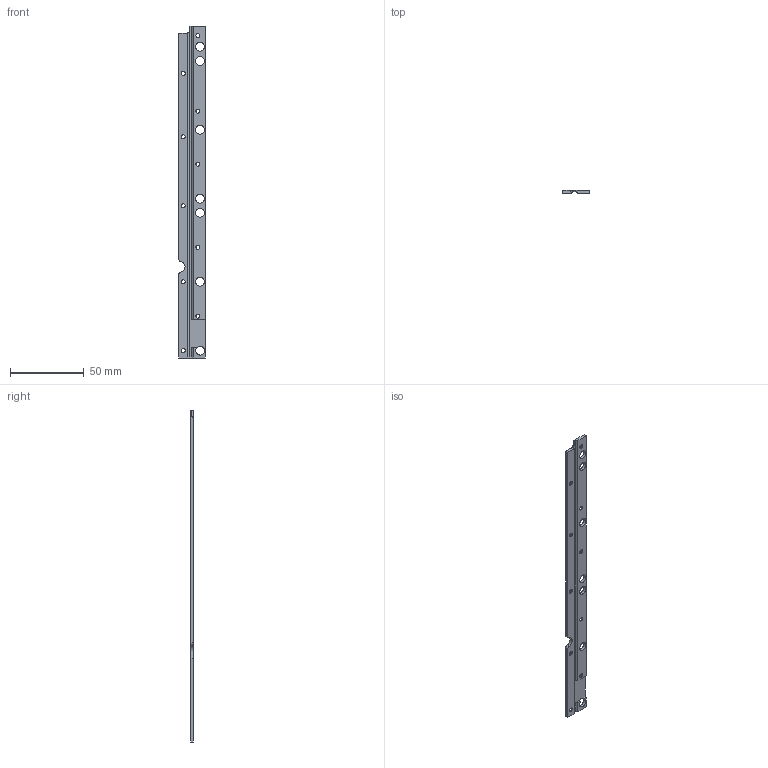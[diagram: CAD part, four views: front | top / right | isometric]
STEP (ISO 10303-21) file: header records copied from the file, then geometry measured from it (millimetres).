
FILE_DESCRIPTION(/* description */ (''),/* implementation_level */ '2;1');
FILE_NAME(/* name */ 'LAMINA#5specular.stp',/* time_stamp */ '2023-10-12T11:02:37+02:00',/* author */ (''),/* organization */ (''),/* preprocessor_version */ 'ST-DEVELOPER v19.4',/* originating_system */ 'SIEMENS PLM Software NX2306.5001',/* authorisation */ '');
FILE_SCHEMA (('AUTOMOTIVE_DESIGN { 1 0 10303 214 3 1 1 1 }'));
Length unit declared in the file: millimetre
Products named in the file (1): LAMINA#5specular_objects
Bounding box: 18 x 2 x 225.5 mm (x, y, z)
Volume: 6214.7 mm3; surface area: 9174.3 mm2
Topology: 1 solids, 1 shells, 52 faces, 163 edges, 107 vertices
Faces by surface type: cylinder 24, plane 18, cone 10
Full cylindrical faces by diameter (mm): 2.7 x10, 6 x7
Entity records: 1660 total; most frequent: DIRECTION 284, CARTESIAN_POINT 279, ORIENTED_EDGE 240, EDGE_CURVE 120, AXIS2_PLACEMENT_3D 112, EDGE_LOOP 107, VERTEX_POINT 91, FACE_BOUND 85
